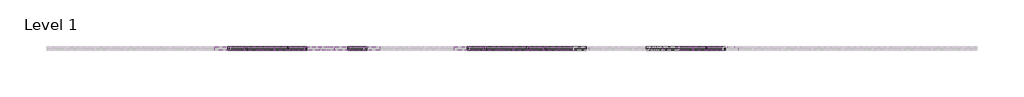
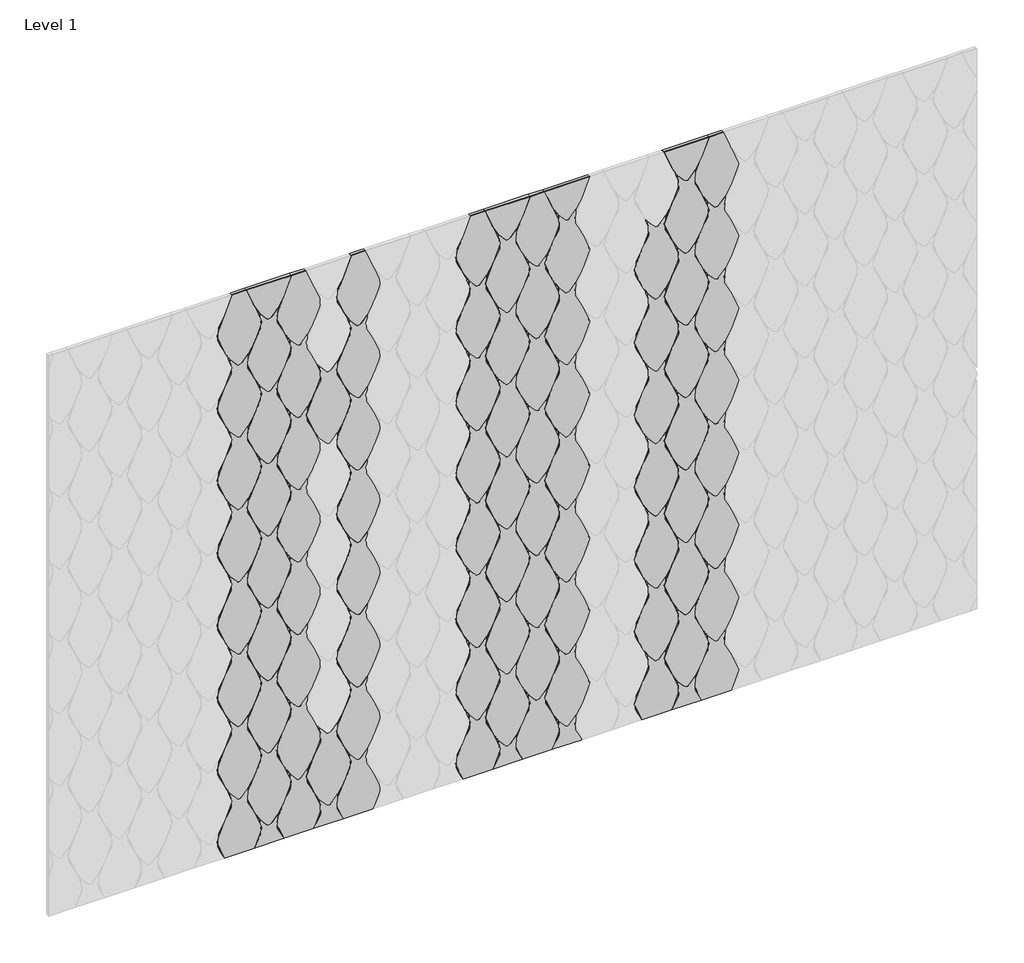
# One storey, part 2 of 3: 94 proxies.
"""IFC4 building model written with IfcOpenShell, lengths in millimetres."""

from ifc_helpers import new_model, si_unit, origin, place, context, project, spatial, transform, mapped, element, save
from components import specialty_equipment_90dfa3fd, specialty_equipment_1cb976ee, specialty_equipment_ba96d7a5, specialty_equipment_e357aaf0, specialty_equipment_1d68d449, specialty_equipment_ef051c02, specialty_equipment_d7a9fa1d, specialty_equipment_cac041dc, specialty_equipment_c87418b1, specialty_equipment_25086a34, specialty_equipment_932aa2c9, specialty_equipment_58f33b70

model = new_model("IFC4")

# Units and contexts
model_context = context("Model", 3, world=origin())
ifc_project = project(units=[si_unit("LENGTHUNIT", "METRE", prefix="MILLI")], contexts=[model_context])

# Site, building, storey
site = spatial("IfcSite", under=ifc_project)
building = spatial("IfcBuilding", under=site)
storey = spatial("IfcBuildingStorey", under=building, Name="Level 1", Elevation=0.0)

# Proxies
placement = place(None, origin())
specialty_equipment_shape = specialty_equipment_90dfa3fd(model_context)
element("IfcBuildingElementProxy", 1, Name="FilzFelt_Fish_Block : Fish Block", ObjectType="FilzFelt_Fish_Block : Fish Block", at=placement, inside=storey, context=model_context, shape_type="MappedRepresentation", body=[
    mapped(specialty_equipment_shape, transform((21206.7774131, 4010.4660665, 1498.5384859), x_axis=(-1.0, 0.0, 0.0), y_axis=(0.0, 0.0, -1.0), z_axis=(0.0, -1.0, 0.0))),
])
element("IfcBuildingElementProxy", 2, Name="FilzFelt_Fish_Block : Fish Block", ObjectType="FilzFelt_Fish_Block : Fish Block", at=placement, inside=storey, context=model_context, shape_type="MappedRepresentation", body=[
    mapped(specialty_equipment_shape, transform((21420.9719959, 4010.4660665, 949.6423796), x_axis=(-1.0, 0.0, 0.0), y_axis=(0.0, 0.0, -1.0), z_axis=(0.0, -1.0, 0.0))),
])
element("IfcBuildingElementProxy", 3, Name="FilzFelt_Fish_Block : Fish Block", ObjectType="FilzFelt_Fish_Block : Fish Block", at=placement, inside=storey, context=model_context, shape_type="MappedRepresentation", body=[
    mapped(specialty_equipment_shape, transform((21420.9719959, 4010.4660665, 2321.8826453), x_axis=(-1.0, 0.0, 0.0), y_axis=(0.0, 0.0, -1.0), z_axis=(0.0, -1.0, 0.0))),
])
element("IfcBuildingElementProxy", 4, Name="FilzFelt_Fish_Block : Fish Block", ObjectType="FilzFelt_Fish_Block : Fish Block", at=placement, inside=storey, context=model_context, shape_type="MappedRepresentation", body=[
    mapped(specialty_equipment_shape, transform((21313.8747045, 4010.4660665, 1635.7625124), x_axis=(-1.0, 0.0, 0.0), y_axis=(0.0, 0.0, -1.0), z_axis=(0.0, -1.0, 0.0))),
])
element("IfcBuildingElementProxy", 5, Name="FilzFelt_Fish_Block : Fish Block", ObjectType="FilzFelt_Fish_Block : Fish Block", at=placement, inside=storey, context=model_context, shape_type="MappedRepresentation", body=[
    mapped(specialty_equipment_shape, transform((21742.2638702, 4010.4660665, 1086.8664061), x_axis=(-1.0, 0.0, 0.0), y_axis=(0.0, 0.0, -1.0), z_axis=(0.0, -1.0, 0.0))),
])
element("IfcBuildingElementProxy", 6, Name="FilzFelt_Fish_Block : Fish Block", ObjectType="FilzFelt_Fish_Block : Fish Block", at=placement, inside=storey, context=model_context, shape_type="MappedRepresentation", body=[
    mapped(specialty_equipment_shape, transform((20349.9990817, 4010.4660665, 1224.0904327), x_axis=(-1.0, 0.0, 0.0), y_axis=(0.0, 0.0, -1.0), z_axis=(0.0, -1.0, 0.0))),
])
element("IfcBuildingElementProxy", 7, Name="FilzFelt_Fish_Block : Fish Block", ObjectType="FilzFelt_Fish_Block : Fish Block", at=placement, inside=storey, context=model_context, shape_type="MappedRepresentation", body=[
    mapped(specialty_equipment_shape, transform((20349.9990817, 4010.4660665, 1772.986539), x_axis=(-1.0, 0.0, 0.0), y_axis=(0.0, 0.0, -1.0), z_axis=(0.0, -1.0, 0.0))),
])
element("IfcBuildingElementProxy", 8, Name="FilzFelt_Fish_Block : Fish Block", ObjectType="FilzFelt_Fish_Block : Fish Block", at=placement, inside=storey, context=model_context, shape_type="MappedRepresentation", body=[
    mapped(specialty_equipment_shape, transform((21206.7774131, 4010.4660665, 1224.0904327), x_axis=(-1.0, 0.0, 0.0), y_axis=(0.0, 0.0, -1.0), z_axis=(0.0, -1.0, 0.0))),
])
element("IfcBuildingElementProxy", 9, Name="FilzFelt_Fish_Block : Fish Block", ObjectType="FilzFelt_Fish_Block : Fish Block", at=placement, inside=storey, context=model_context, shape_type="MappedRepresentation", body=[
    mapped(specialty_equipment_shape, transform((21206.7774131, 4010.4660665, 1772.986539), x_axis=(-1.0, 0.0, 0.0), y_axis=(0.0, 0.0, -1.0), z_axis=(0.0, -1.0, 0.0))),
])
element("IfcBuildingElementProxy", 10, Name="FilzFelt_Fish_Block : Fish Block", ObjectType="FilzFelt_Fish_Block : Fish Block", at=placement, inside=storey, context=model_context, shape_type="MappedRepresentation", body=[
    mapped(specialty_equipment_shape, transform((21206.7774131, 4010.4660665, 2047.4345922), x_axis=(-1.0, 0.0, 0.0), y_axis=(0.0, 0.0, -1.0), z_axis=(0.0, -1.0, 0.0))),
])
element("IfcBuildingElementProxy", 11, Name="FilzFelt_Fish_Block : Fish Block", ObjectType="FilzFelt_Fish_Block : Fish Block", at=placement, inside=storey, context=model_context, shape_type="MappedRepresentation", body=[
    mapped(specialty_equipment_shape, transform((21420.9719959, 4010.4660665, 1498.5384859), x_axis=(-1.0, 0.0, 0.0), y_axis=(0.0, 0.0, -1.0), z_axis=(0.0, -1.0, 0.0))),
])
element("IfcBuildingElementProxy", 12, Name="FilzFelt_Fish_Block : Fish Block", ObjectType="FilzFelt_Fish_Block : Fish Block", at=placement, inside=storey, context=model_context, shape_type="MappedRepresentation", body=[
    mapped(specialty_equipment_shape, transform((21420.9719959, 4010.4660665, 2047.4345922), x_axis=(-1.0, 0.0, 0.0), y_axis=(0.0, 0.0, -1.0), z_axis=(0.0, -1.0, 0.0))),
])
element("IfcBuildingElementProxy", 13, Name="FilzFelt_Fish_Block : Fish Block", ObjectType="FilzFelt_Fish_Block : Fish Block", at=placement, inside=storey, context=model_context, shape_type="MappedRepresentation", body=[
    mapped(specialty_equipment_shape, transform((21313.8747045, 4010.4660665, 812.418353), x_axis=(-1.0, 0.0, 0.0), y_axis=(0.0, 0.0, -1.0), z_axis=(0.0, -1.0, 0.0))),
])
element("IfcBuildingElementProxy", 14, Name="FilzFelt_Fish_Block : Fish Block", ObjectType="FilzFelt_Fish_Block : Fish Block", at=placement, inside=storey, context=model_context, shape_type="MappedRepresentation", body=[
    mapped(specialty_equipment_shape, transform((21313.8747045, 4010.4660665, 1086.8664061), x_axis=(-1.0, 0.0, 0.0), y_axis=(0.0, 0.0, -1.0), z_axis=(0.0, -1.0, 0.0))),
])
element("IfcBuildingElementProxy", 15, Name="FilzFelt_Fish_Block : Fish Block", ObjectType="FilzFelt_Fish_Block : Fish Block", at=placement, inside=storey, context=model_context, shape_type="MappedRepresentation", body=[
    mapped(specialty_equipment_shape, transform((21313.8747045, 4010.4660665, 2184.6586188), x_axis=(-1.0, 0.0, 0.0), y_axis=(0.0, 0.0, -1.0), z_axis=(0.0, -1.0, 0.0))),
])
element("IfcBuildingElementProxy", 16, Name="FilzFelt_Fish_Block : Fish Block", ObjectType="FilzFelt_Fish_Block : Fish Block", at=placement, inside=storey, context=model_context, shape_type="MappedRepresentation", body=[
    mapped(specialty_equipment_shape, transform((21742.2638702, 4010.4660665, 812.418353), x_axis=(-1.0, 0.0, 0.0), y_axis=(0.0, 0.0, -1.0), z_axis=(0.0, -1.0, 0.0))),
])
element("IfcBuildingElementProxy", 17, Name="FilzFelt_Fish_Block : Fish Block", ObjectType="FilzFelt_Fish_Block : Fish Block", at=placement, inside=storey, context=model_context, shape_type="MappedRepresentation", body=[
    mapped(specialty_equipment_shape, transform((21742.2638702, 4010.4660665, 1635.7625124), x_axis=(-1.0, 0.0, 0.0), y_axis=(0.0, 0.0, -1.0), z_axis=(0.0, -1.0, 0.0))),
])
element("IfcBuildingElementProxy", 18, Name="FilzFelt_Fish_Block : Fish Block", ObjectType="FilzFelt_Fish_Block : Fish Block", at=placement, inside=storey, context=model_context, shape_type="MappedRepresentation", body=[
    mapped(specialty_equipment_shape, transform((21742.2638702, 4010.4660665, 1910.2105656), x_axis=(-1.0, 0.0, 0.0), y_axis=(0.0, 0.0, -1.0), z_axis=(0.0, -1.0, 0.0))),
])
element("IfcBuildingElementProxy", 19, Name="FilzFelt_Fish_Block : Fish Block", ObjectType="FilzFelt_Fish_Block : Fish Block", at=placement, inside=storey, context=model_context, shape_type="MappedRepresentation", body=[
    mapped(specialty_equipment_shape, transform((21742.2638702, 4010.4660665, 2184.6586188), x_axis=(-1.0, 0.0, 0.0), y_axis=(0.0, 0.0, -1.0), z_axis=(0.0, -1.0, 0.0))),
])
element("IfcBuildingElementProxy", 20, Name="FilzFelt_Fish_Block : Fish Block", ObjectType="FilzFelt_Fish_Block : Fish Block", at=placement, inside=storey, context=model_context, shape_type="MappedRepresentation", body=[
    mapped(specialty_equipment_shape, transform((20349.9990817, 4010.4660665, 949.6423796), x_axis=(-1.0, 0.0, 0.0), y_axis=(0.0, 0.0, -1.0), z_axis=(0.0, -1.0, 0.0))),
])
element("IfcBuildingElementProxy", 21, Name="FilzFelt_Fish_Block : Fish Block", ObjectType="FilzFelt_Fish_Block : Fish Block", at=placement, inside=storey, context=model_context, shape_type="MappedRepresentation", body=[
    mapped(specialty_equipment_shape, transform((20349.9990817, 4010.4660665, 2321.8826453), x_axis=(-1.0, 0.0, 0.0), y_axis=(0.0, 0.0, -1.0), z_axis=(0.0, -1.0, 0.0))),
])
element("IfcBuildingElementProxy", 22, Name="FilzFelt_Fish_Block : Fish Block", ObjectType="FilzFelt_Fish_Block : Fish Block", at=placement, inside=storey, context=model_context, shape_type="MappedRepresentation", body=[
    mapped(specialty_equipment_shape, transform((20349.9990817, 4010.4660665, 2047.4345922), x_axis=(-1.0, 0.0, 0.0), y_axis=(0.0, 0.0, -1.0), z_axis=(0.0, -1.0, 0.0))),
])
element("IfcBuildingElementProxy", 23, Name="FilzFelt_Fish_Block : Fish Block", ObjectType="FilzFelt_Fish_Block : Fish Block", at=placement, inside=storey, context=model_context, shape_type="MappedRepresentation", body=[
    mapped(specialty_equipment_shape, transform((20457.0963731, 4010.4660665, 1361.3144593), x_axis=(-1.0, 0.0, 0.0), y_axis=(0.0, 0.0, -1.0), z_axis=(0.0, -1.0, 0.0))),
])
element("IfcBuildingElementProxy", 24, Name="FilzFelt_Fish_Block : Fish Block", ObjectType="FilzFelt_Fish_Block : Fish Block", at=placement, inside=storey, context=model_context, shape_type="MappedRepresentation", body=[
    mapped(specialty_equipment_shape, transform((20457.0963731, 4010.4660665, 1635.7625124), x_axis=(-1.0, 0.0, 0.0), y_axis=(0.0, 0.0, -1.0), z_axis=(0.0, -1.0, 0.0))),
])
specialty_equipment_2_shape = specialty_equipment_1cb976ee(model_context)
element("IfcBuildingElementProxy", 25, Name="FilzFelt_Fish_Block : Fish Block", ObjectType="FilzFelt_Fish_Block : Fish Block", at=placement, inside=storey, context=model_context, shape_type="MappedRepresentation", body=[
    mapped(specialty_equipment_2_shape, transform((20349.9990817, 4010.4660665, 2596.3306985), x_axis=(-1.0, 0.0, 0.0), y_axis=(0.0, 0.0, -1.0), z_axis=(0.0, -1.0, 0.0))),
])
element("IfcBuildingElementProxy", 26, Name="FilzFelt_Fish_Block : Fish Block", ObjectType="FilzFelt_Fish_Block : Fish Block", at=placement, inside=storey, context=model_context, shape_type="MappedRepresentation", body=[
    mapped(specialty_equipment_shape, transform((21206.7774131, 4010.4660665, 949.6423796), x_axis=(-1.0, 0.0, 0.0), y_axis=(0.0, 0.0, -1.0), z_axis=(0.0, -1.0, 0.0))),
])
element("IfcBuildingElementProxy", 27, Name="FilzFelt_Fish_Block : Fish Block", ObjectType="FilzFelt_Fish_Block : Fish Block", at=placement, inside=storey, context=model_context, shape_type="MappedRepresentation", body=[
    mapped(specialty_equipment_shape, transform((21206.7774131, 4010.4660665, 2321.8826453), x_axis=(-1.0, 0.0, 0.0), y_axis=(0.0, 0.0, -1.0), z_axis=(0.0, -1.0, 0.0))),
])
element("IfcBuildingElementProxy", 28, Name="FilzFelt_Fish_Block : Fish Block", ObjectType="FilzFelt_Fish_Block : Fish Block", at=placement, inside=storey, context=model_context, shape_type="MappedRepresentation", body=[
    mapped(specialty_equipment_shape, transform((21313.8747045, 4010.4660665, 1361.3144593), x_axis=(-1.0, 0.0, 0.0), y_axis=(0.0, 0.0, -1.0), z_axis=(0.0, -1.0, 0.0))),
])
element("IfcBuildingElementProxy", 29, Name="FilzFelt_Fish_Block : Fish Block", ObjectType="FilzFelt_Fish_Block : Fish Block", at=placement, inside=storey, context=model_context, shape_type="MappedRepresentation", body=[
    mapped(specialty_equipment_shape, transform((21742.2638702, 4010.4660665, 1361.3144593), x_axis=(-1.0, 0.0, 0.0), y_axis=(0.0, 0.0, -1.0), z_axis=(0.0, -1.0, 0.0))),
])
element("IfcBuildingElementProxy", 30, Name="FilzFelt_Fish_Block : Fish Block", ObjectType="FilzFelt_Fish_Block : Fish Block", at=placement, inside=storey, context=model_context, shape_type="MappedRepresentation", body=[
    mapped(specialty_equipment_shape, transform((20457.0963731, 4010.4660665, 812.418353), x_axis=(-1.0, 0.0, 0.0), y_axis=(0.0, 0.0, -1.0), z_axis=(0.0, -1.0, 0.0))),
])
element("IfcBuildingElementProxy", 31, Name="FilzFelt_Fish_Block : Fish Block", ObjectType="FilzFelt_Fish_Block : Fish Block", at=placement, inside=storey, context=model_context, shape_type="MappedRepresentation", body=[
    mapped(specialty_equipment_shape, transform((20457.0963731, 4010.4660665, 2184.6586188), x_axis=(-1.0, 0.0, 0.0), y_axis=(0.0, 0.0, -1.0), z_axis=(0.0, -1.0, 0.0))),
])
specialty_equipment_3_shape = specialty_equipment_ba96d7a5(model_context)
element("IfcBuildingElementProxy", 32, Name="FilzFelt_Fish_Block : Fish Block", ObjectType="FilzFelt_Fish_Block : Fish Block", at=placement, inside=storey, context=model_context, shape_type="MappedRepresentation", body=[
    mapped(specialty_equipment_3_shape, transform((21313.8747045, 4010.4660665, 537.9702998), x_axis=(-1.0, 0.0, 0.0), y_axis=(0.0, 0.0, -1.0), z_axis=(0.0, -1.0, 0.0))),
])
element("IfcBuildingElementProxy", 33, Name="FilzFelt_Fish_Block : Fish Block", ObjectType="FilzFelt_Fish_Block : Fish Block", at=placement, inside=storey, context=model_context, shape_type="MappedRepresentation", body=[
    mapped(specialty_equipment_3_shape, transform((20457.0963731, 4010.4660665, 537.9702998), x_axis=(-1.0, 0.0, 0.0), y_axis=(0.0, 0.0, -1.0), z_axis=(0.0, -1.0, 0.0))),
])
element("IfcBuildingElementProxy", 34, Name="FilzFelt_Fish_Block : Fish Block", ObjectType="FilzFelt_Fish_Block : Fish Block", at=placement, inside=storey, context=model_context, shape_type="MappedRepresentation", body=[
    mapped(specialty_equipment_shape, transform((21420.9719959, 4010.4660665, 1224.0904327), x_axis=(-1.0, 0.0, 0.0), y_axis=(0.0, 0.0, -1.0), z_axis=(0.0, -1.0, 0.0))),
])
element("IfcBuildingElementProxy", 35, Name="FilzFelt_Fish_Block : Fish Block", ObjectType="FilzFelt_Fish_Block : Fish Block", at=placement, inside=storey, context=model_context, shape_type="MappedRepresentation", body=[
    mapped(specialty_equipment_shape, transform((21420.9719959, 4010.4660665, 1772.986539), x_axis=(-1.0, 0.0, 0.0), y_axis=(0.0, 0.0, -1.0), z_axis=(0.0, -1.0, 0.0))),
])
element("IfcBuildingElementProxy", 36, Name="FilzFelt_Fish_Block : Fish Block", ObjectType="FilzFelt_Fish_Block : Fish Block", at=placement, inside=storey, context=model_context, shape_type="MappedRepresentation", body=[
    mapped(specialty_equipment_shape, transform((21313.8747045, 4010.4660665, 1910.2105656), x_axis=(-1.0, 0.0, 0.0), y_axis=(0.0, 0.0, -1.0), z_axis=(0.0, -1.0, 0.0))),
])
element("IfcBuildingElementProxy", 37, Name="FilzFelt_Fish_Block : Fish Block", ObjectType="FilzFelt_Fish_Block : Fish Block", at=placement, inside=storey, context=model_context, shape_type="MappedRepresentation", body=[
    mapped(specialty_equipment_shape, transform((20349.9990817, 4010.4660665, 1498.5384859), x_axis=(-1.0, 0.0, 0.0), y_axis=(0.0, 0.0, -1.0), z_axis=(0.0, -1.0, 0.0))),
])
element("IfcBuildingElementProxy", 38, Name="FilzFelt_Fish_Block : Fish Block", ObjectType="FilzFelt_Fish_Block : Fish Block", at=placement, inside=storey, context=model_context, shape_type="MappedRepresentation", body=[
    mapped(specialty_equipment_shape, transform((20457.0963731, 4010.4660665, 1086.8664061), x_axis=(-1.0, 0.0, 0.0), y_axis=(0.0, 0.0, -1.0), z_axis=(0.0, -1.0, 0.0))),
])
element("IfcBuildingElementProxy", 39, Name="FilzFelt_Fish_Block : Fish Block", ObjectType="FilzFelt_Fish_Block : Fish Block", at=placement, inside=storey, context=model_context, shape_type="MappedRepresentation", body=[
    mapped(specialty_equipment_shape, transform((20457.0963731, 4010.4660665, 1910.2105656), x_axis=(-1.0, 0.0, 0.0), y_axis=(0.0, 0.0, -1.0), z_axis=(0.0, -1.0, 0.0))),
])
specialty_equipment_4_shape = specialty_equipment_e357aaf0(model_context)
element("IfcBuildingElementProxy", 40, Name="FilzFelt_Fish_Block : Fish Block", ObjectType="FilzFelt_Fish_Block : Fish Block", at=placement, inside=storey, context=model_context, shape_type="MappedRepresentation", body=[
    mapped(specialty_equipment_4_shape, transform((20457.0963731, 4010.4660665, 2459.1066719), x_axis=(-1.0, 0.0, 0.0), y_axis=(0.0, 0.0, -1.0), z_axis=(0.0, -1.0, 0.0))),
])
specialty_equipment_5_shape = specialty_equipment_1d68d449(model_context)
element("IfcBuildingElementProxy", 41, Name="FilzFelt_Fish_Block : Fish Block", ObjectType="FilzFelt_Fish_Block : Fish Block", at=placement, inside=storey, context=model_context, shape_type="MappedRepresentation", body=[
    mapped(specialty_equipment_5_shape, transform((21849.3611616, 4010.4660665, 1772.986539), x_axis=(1.0, 0.0, 0.0), y_axis=(0.0, 0.0, 1.0), z_axis=(0.0, -1.0, 0.0))),
])
element("IfcBuildingElementProxy", 42, Name="FilzFelt_Fish_Block : Fish Block", ObjectType="FilzFelt_Fish_Block : Fish Block", at=placement, inside=storey, context=model_context, shape_type="MappedRepresentation", body=[
    mapped(specialty_equipment_5_shape, transform((21956.458453, 4010.4660665, 1086.8664061), x_axis=(1.0, 0.0, 0.0), y_axis=(0.0, 0.0, 1.0), z_axis=(0.0, -1.0, 0.0))),
])
element("IfcBuildingElementProxy", 43, Name="FilzFelt_Fish_Block : Fish Block", ObjectType="FilzFelt_Fish_Block : Fish Block", at=placement, inside=storey, context=model_context, shape_type="MappedRepresentation", body=[
    mapped(specialty_equipment_5_shape, transform((21099.6801216, 4010.4660665, 812.418353), x_axis=(1.0, 0.0, 0.0), y_axis=(0.0, 0.0, 1.0), z_axis=(0.0, -1.0, 0.0))),
])
element("IfcBuildingElementProxy", 44, Name="FilzFelt_Fish_Block : Fish Block", ObjectType="FilzFelt_Fish_Block : Fish Block", at=placement, inside=storey, context=model_context, shape_type="MappedRepresentation", body=[
    mapped(specialty_equipment_5_shape, transform((21099.6801216, 4010.4660665, 1910.2105656), x_axis=(1.0, 0.0, 0.0), y_axis=(0.0, 0.0, 1.0), z_axis=(0.0, -1.0, 0.0))),
])
element("IfcBuildingElementProxy", 45, Name="FilzFelt_Fish_Block : Fish Block", ObjectType="FilzFelt_Fish_Block : Fish Block", at=placement, inside=storey, context=model_context, shape_type="MappedRepresentation", body=[
    mapped(specialty_equipment_5_shape, transform((21099.6801216, 4010.4660665, 2184.6586188), x_axis=(1.0, 0.0, 0.0), y_axis=(0.0, 0.0, 1.0), z_axis=(0.0, -1.0, 0.0))),
])
element("IfcBuildingElementProxy", 46, Name="FilzFelt_Fish_Block : Fish Block", ObjectType="FilzFelt_Fish_Block : Fish Block", at=placement, inside=storey, context=model_context, shape_type="MappedRepresentation", body=[
    mapped(specialty_equipment_5_shape, transform((20671.290956, 4010.4660665, 1361.3144593), x_axis=(1.0, 0.0, 0.0), y_axis=(0.0, 0.0, 1.0), z_axis=(0.0, -1.0, 0.0))),
])
element("IfcBuildingElementProxy", 47, Name="FilzFelt_Fish_Block : Fish Block", ObjectType="FilzFelt_Fish_Block : Fish Block", at=placement, inside=storey, context=model_context, shape_type="MappedRepresentation", body=[
    mapped(specialty_equipment_5_shape, transform((20242.9017903, 4010.4660665, 812.418353), x_axis=(1.0, 0.0, 0.0), y_axis=(0.0, 0.0, 1.0), z_axis=(0.0, -1.0, 0.0))),
])
element("IfcBuildingElementProxy", 48, Name="FilzFelt_Fish_Block : Fish Block", ObjectType="FilzFelt_Fish_Block : Fish Block", at=placement, inside=storey, context=model_context, shape_type="MappedRepresentation", body=[
    mapped(specialty_equipment_5_shape, transform((20242.9017903, 4010.4660665, 2184.6586188), x_axis=(1.0, 0.0, 0.0), y_axis=(0.0, 0.0, 1.0), z_axis=(0.0, -1.0, 0.0))),
])
element("IfcBuildingElementProxy", 49, Name="FilzFelt_Fish_Block : Fish Block", ObjectType="FilzFelt_Fish_Block : Fish Block", at=placement, inside=storey, context=model_context, shape_type="MappedRepresentation", body=[
    mapped(specialty_equipment_5_shape, transform((21849.3611616, 4010.4660665, 2047.4345922), x_axis=(1.0, 0.0, 0.0), y_axis=(0.0, 0.0, 1.0), z_axis=(0.0, -1.0, 0.0))),
])
element("IfcBuildingElementProxy", 50, Name="FilzFelt_Fish_Block : Fish Block", ObjectType="FilzFelt_Fish_Block : Fish Block", at=placement, inside=storey, context=model_context, shape_type="MappedRepresentation", body=[
    mapped(specialty_equipment_5_shape, transform((21099.6801216, 4010.4660665, 1086.8664061), x_axis=(1.0, 0.0, 0.0), y_axis=(0.0, 0.0, 1.0), z_axis=(0.0, -1.0, 0.0))),
])
element("IfcBuildingElementProxy", 51, Name="FilzFelt_Fish_Block : Fish Block", ObjectType="FilzFelt_Fish_Block : Fish Block", at=placement, inside=storey, context=model_context, shape_type="MappedRepresentation", body=[
    mapped(specialty_equipment_5_shape, transform((21099.6801216, 4010.4660665, 1361.3144593), x_axis=(1.0, 0.0, 0.0), y_axis=(0.0, 0.0, 1.0), z_axis=(0.0, -1.0, 0.0))),
])
element("IfcBuildingElementProxy", 52, Name="FilzFelt_Fish_Block : Fish Block", ObjectType="FilzFelt_Fish_Block : Fish Block", at=placement, inside=storey, context=model_context, shape_type="MappedRepresentation", body=[
    mapped(specialty_equipment_5_shape, transform((20671.290956, 4010.4660665, 1086.8664061), x_axis=(1.0, 0.0, 0.0), y_axis=(0.0, 0.0, 1.0), z_axis=(0.0, -1.0, 0.0))),
])
element("IfcBuildingElementProxy", 53, Name="FilzFelt_Fish_Block : Fish Block", ObjectType="FilzFelt_Fish_Block : Fish Block", at=placement, inside=storey, context=model_context, shape_type="MappedRepresentation", body=[
    mapped(specialty_equipment_5_shape, transform((20242.9017903, 4010.4660665, 1635.7625124), x_axis=(1.0, 0.0, 0.0), y_axis=(0.0, 0.0, 1.0), z_axis=(0.0, -1.0, 0.0))),
])
element("IfcBuildingElementProxy", 54, Name="FilzFelt_Fish_Block : Fish Block", ObjectType="FilzFelt_Fish_Block : Fish Block", at=placement, inside=storey, context=model_context, shape_type="MappedRepresentation", body=[
    mapped(specialty_equipment_5_shape, transform((21849.3611616, 4010.4660665, 1224.0904327), x_axis=(1.0, 0.0, 0.0), y_axis=(0.0, 0.0, 1.0), z_axis=(0.0, -1.0, 0.0))),
])
element("IfcBuildingElementProxy", 55, Name="FilzFelt_Fish_Block : Fish Block", ObjectType="FilzFelt_Fish_Block : Fish Block", at=placement, inside=storey, context=model_context, shape_type="MappedRepresentation", body=[
    mapped(specialty_equipment_5_shape, transform((21849.3611616, 4010.4660665, 1498.5384859), x_axis=(1.0, 0.0, 0.0), y_axis=(0.0, 0.0, 1.0), z_axis=(0.0, -1.0, 0.0))),
])
element("IfcBuildingElementProxy", 56, Name="FilzFelt_Fish_Block : Fish Block", ObjectType="FilzFelt_Fish_Block : Fish Block", at=placement, inside=storey, context=model_context, shape_type="MappedRepresentation", body=[
    mapped(specialty_equipment_5_shape, transform((21849.3611616, 4010.4660665, 949.6423796), x_axis=(1.0, 0.0, 0.0), y_axis=(0.0, 0.0, 1.0), z_axis=(0.0, -1.0, 0.0))),
])
element("IfcBuildingElementProxy", 57, Name="FilzFelt_Fish_Block : Fish Block", ObjectType="FilzFelt_Fish_Block : Fish Block", at=placement, inside=storey, context=model_context, shape_type="MappedRepresentation", body=[
    mapped(specialty_equipment_5_shape, transform((21849.3611616, 4010.4660665, 2321.8826453), x_axis=(1.0, 0.0, 0.0), y_axis=(0.0, 0.0, 1.0), z_axis=(0.0, -1.0, 0.0))),
])
element("IfcBuildingElementProxy", 58, Name="FilzFelt_Fish_Block : Fish Block", ObjectType="FilzFelt_Fish_Block : Fish Block", at=placement, inside=storey, context=model_context, shape_type="MappedRepresentation", body=[
    mapped(specialty_equipment_5_shape, transform((21956.458453, 4010.4660665, 1361.3144593), x_axis=(1.0, 0.0, 0.0), y_axis=(0.0, 0.0, 1.0), z_axis=(0.0, -1.0, 0.0))),
])
element("IfcBuildingElementProxy", 59, Name="FilzFelt_Fish_Block : Fish Block", ObjectType="FilzFelt_Fish_Block : Fish Block", at=placement, inside=storey, context=model_context, shape_type="MappedRepresentation", body=[
    mapped(specialty_equipment_5_shape, transform((21956.458453, 4010.4660665, 1635.7625124), x_axis=(1.0, 0.0, 0.0), y_axis=(0.0, 0.0, 1.0), z_axis=(0.0, -1.0, 0.0))),
])
element("IfcBuildingElementProxy", 60, Name="FilzFelt_Fish_Block : Fish Block", ObjectType="FilzFelt_Fish_Block : Fish Block", at=placement, inside=storey, context=model_context, shape_type="MappedRepresentation", body=[
    mapped(specialty_equipment_5_shape, transform((21956.458453, 4010.4660665, 1910.2105656), x_axis=(1.0, 0.0, 0.0), y_axis=(0.0, 0.0, 1.0), z_axis=(0.0, -1.0, 0.0))),
])
element("IfcBuildingElementProxy", 61, Name="FilzFelt_Fish_Block : Fish Block", ObjectType="FilzFelt_Fish_Block : Fish Block", at=placement, inside=storey, context=model_context, shape_type="MappedRepresentation", body=[
    mapped(specialty_equipment_5_shape, transform((20671.290956, 4010.4660665, 812.418353), x_axis=(1.0, 0.0, 0.0), y_axis=(0.0, 0.0, 1.0), z_axis=(0.0, -1.0, 0.0))),
])
element("IfcBuildingElementProxy", 62, Name="FilzFelt_Fish_Block : Fish Block", ObjectType="FilzFelt_Fish_Block : Fish Block", at=placement, inside=storey, context=model_context, shape_type="MappedRepresentation", body=[
    mapped(specialty_equipment_5_shape, transform((20671.290956, 4010.4660665, 1635.7625124), x_axis=(1.0, 0.0, 0.0), y_axis=(0.0, 0.0, 1.0), z_axis=(0.0, -1.0, 0.0))),
])
element("IfcBuildingElementProxy", 63, Name="FilzFelt_Fish_Block : Fish Block", ObjectType="FilzFelt_Fish_Block : Fish Block", at=placement, inside=storey, context=model_context, shape_type="MappedRepresentation", body=[
    mapped(specialty_equipment_5_shape, transform((20671.290956, 4010.4660665, 2184.6586188), x_axis=(1.0, 0.0, 0.0), y_axis=(0.0, 0.0, 1.0), z_axis=(0.0, -1.0, 0.0))),
])
element("IfcBuildingElementProxy", 64, Name="FilzFelt_Fish_Block : Fish Block", ObjectType="FilzFelt_Fish_Block : Fish Block", at=placement, inside=storey, context=model_context, shape_type="MappedRepresentation", body=[
    mapped(specialty_equipment_5_shape, transform((20242.9017903, 4010.4660665, 1361.3144593), x_axis=(1.0, 0.0, 0.0), y_axis=(0.0, 0.0, 1.0), z_axis=(0.0, -1.0, 0.0))),
])
element("IfcBuildingElementProxy", 65, Name="FilzFelt_Fish_Block : Fish Block", ObjectType="FilzFelt_Fish_Block : Fish Block", at=placement, inside=storey, context=model_context, shape_type="MappedRepresentation", body=[
    mapped(specialty_equipment_5_shape, transform((20242.9017903, 4010.4660665, 1910.2105656), x_axis=(1.0, 0.0, 0.0), y_axis=(0.0, 0.0, 1.0), z_axis=(0.0, -1.0, 0.0))),
])
specialty_equipment_6_shape = specialty_equipment_ef051c02(model_context)
element("IfcBuildingElementProxy", 66, Name="FilzFelt_Fish_Block : Fish Block", ObjectType="FilzFelt_Fish_Block : Fish Block", at=placement, inside=storey, context=model_context, shape_type="MappedRepresentation", body=[
    mapped(specialty_equipment_6_shape, transform((21849.3611616, 4010.4660665, 400.7462733), x_axis=(1.0, 0.0, 0.0), y_axis=(0.0, 0.0, 1.0), z_axis=(0.0, -1.0, 0.0))),
])
element("IfcBuildingElementProxy", 67, Name="FilzFelt_Fish_Block : Fish Block", ObjectType="FilzFelt_Fish_Block : Fish Block", at=placement, inside=storey, context=model_context, shape_type="MappedRepresentation", body=[
    mapped(specialty_equipment_5_shape, transform((21956.458453, 4010.4660665, 812.418353), x_axis=(1.0, 0.0, 0.0), y_axis=(0.0, 0.0, 1.0), z_axis=(0.0, -1.0, 0.0))),
])
element("IfcBuildingElementProxy", 68, Name="FilzFelt_Fish_Block : Fish Block", ObjectType="FilzFelt_Fish_Block : Fish Block", at=placement, inside=storey, context=model_context, shape_type="MappedRepresentation", body=[
    mapped(specialty_equipment_5_shape, transform((21956.458453, 4010.4660665, 2184.6586188), x_axis=(1.0, 0.0, 0.0), y_axis=(0.0, 0.0, 1.0), z_axis=(0.0, -1.0, 0.0))),
])
element("IfcBuildingElementProxy", 69, Name="FilzFelt_Fish_Block : Fish Block", ObjectType="FilzFelt_Fish_Block : Fish Block", at=placement, inside=storey, context=model_context, shape_type="MappedRepresentation", body=[
    mapped(specialty_equipment_5_shape, transform((21099.6801216, 4010.4660665, 1635.7625124), x_axis=(1.0, 0.0, 0.0), y_axis=(0.0, 0.0, 1.0), z_axis=(0.0, -1.0, 0.0))),
])
element("IfcBuildingElementProxy", 70, Name="FilzFelt_Fish_Block : Fish Block", ObjectType="FilzFelt_Fish_Block : Fish Block", at=placement, inside=storey, context=model_context, shape_type="MappedRepresentation", body=[
    mapped(specialty_equipment_5_shape, transform((20564.1936645, 4010.4660665, 2047.4345922), x_axis=(1.0, 0.0, 0.0), y_axis=(0.0, 0.0, 1.0), z_axis=(0.0, -1.0, 0.0))),
])
element("IfcBuildingElementProxy", 71, Name="FilzFelt_Fish_Block : Fish Block", ObjectType="FilzFelt_Fish_Block : Fish Block", at=placement, inside=storey, context=model_context, shape_type="MappedRepresentation", body=[
    mapped(specialty_equipment_5_shape, transform((20671.290956, 4010.4660665, 1910.2105656), x_axis=(1.0, 0.0, 0.0), y_axis=(0.0, 0.0, 1.0), z_axis=(0.0, -1.0, 0.0))),
])
element("IfcBuildingElementProxy", 72, Name="FilzFelt_Fish_Block : Fish Block", ObjectType="FilzFelt_Fish_Block : Fish Block", at=placement, inside=storey, context=model_context, shape_type="MappedRepresentation", body=[
    mapped(specialty_equipment_5_shape, transform((20242.9017903, 4010.4660665, 1086.8664061), x_axis=(1.0, 0.0, 0.0), y_axis=(0.0, 0.0, 1.0), z_axis=(0.0, -1.0, 0.0))),
])
specialty_equipment_7_shape = specialty_equipment_d7a9fa1d(model_context)
element("IfcBuildingElementProxy", 73, Name="FilzFelt_Fish_Block : Fish Block", ObjectType="FilzFelt_Fish_Block : Fish Block", at=placement, inside=storey, context=model_context, shape_type="MappedRepresentation", body=[
    mapped(specialty_equipment_7_shape, transform((20564.1936645, 4010.4660665, 675.1943264), x_axis=(1.0, 0.0, 0.0), y_axis=(0.0, 0.0, 1.0), z_axis=(0.0, -1.0, 0.0))),
])
specialty_equipment_8_shape = specialty_equipment_cac041dc(model_context)
element("IfcBuildingElementProxy", 74, Name="FilzFelt_Fish_Block : Fish Block", ObjectType="FilzFelt_Fish_Block : Fish Block", at=placement, inside=storey, context=model_context, shape_type="MappedRepresentation", body=[
    mapped(specialty_equipment_8_shape, transform((21956.458453, 4010.4660665, 537.9702998), x_axis=(1.0, 0.0, 0.0), y_axis=(0.0, 0.0, 1.0), z_axis=(0.0, -1.0, 0.0))),
])
element("IfcBuildingElementProxy", 75, Name="FilzFelt_Fish_Block : Fish Block", ObjectType="FilzFelt_Fish_Block : Fish Block", at=placement, inside=storey, context=model_context, shape_type="MappedRepresentation", body=[
    mapped(specialty_equipment_8_shape, transform((20242.9017903, 4010.4660665, 537.9702998), x_axis=(1.0, 0.0, 0.0), y_axis=(0.0, 0.0, 1.0), z_axis=(0.0, -1.0, 0.0))),
])
specialty_equipment_9_shape = specialty_equipment_c87418b1(model_context)
element("IfcBuildingElementProxy", 76, Name="FilzFelt_Fish_Block : Fish Block", ObjectType="FilzFelt_Fish_Block : Fish Block", at=placement, inside=storey, context=model_context, shape_type="MappedRepresentation", body=[
    mapped(specialty_equipment_9_shape, transform((20242.9017903, 4010.4660665, 2459.1066719), x_axis=(1.0, 0.0, 0.0), y_axis=(0.0, 0.0, 1.0), z_axis=(0.0, -1.0, 0.0))),
])
specialty_equipment_10_shape = specialty_equipment_25086a34(model_context)
element("IfcBuildingElementProxy", 77, Name="FilzFelt_Fish_Block : Fish Block", ObjectType="FilzFelt_Fish_Block : Fish Block", at=placement, inside=storey, context=model_context, shape_type="MappedRepresentation", body=[
    mapped(specialty_equipment_10_shape, transform((21849.3611616, 4010.4660665, 2596.3306985), x_axis=(1.0, 0.0, 0.0), y_axis=(0.0, 0.0, 1.0), z_axis=(0.0, -1.0, 0.0))),
])
element("IfcBuildingElementProxy", 78, Name="FilzFelt_Fish_Block : Fish Block", ObjectType="FilzFelt_Fish_Block : Fish Block", at=placement, inside=storey, context=model_context, shape_type="MappedRepresentation", body=[
    mapped(specialty_equipment_7_shape, transform((21849.3611616, 4010.4660665, 675.1943264), x_axis=(1.0, 0.0, 0.0), y_axis=(0.0, 0.0, 1.0), z_axis=(0.0, -1.0, 0.0))),
])
element("IfcBuildingElementProxy", 79, Name="FilzFelt_Fish_Block : Fish Block", ObjectType="FilzFelt_Fish_Block : Fish Block", at=placement, inside=storey, context=model_context, shape_type="MappedRepresentation", body=[
    mapped(specialty_equipment_9_shape, transform((21956.458453, 4010.4660665, 2459.1066719), x_axis=(1.0, 0.0, 0.0), y_axis=(0.0, 0.0, 1.0), z_axis=(0.0, -1.0, 0.0))),
])
element("IfcBuildingElementProxy", 80, Name="FilzFelt_Fish_Block : Fish Block", ObjectType="FilzFelt_Fish_Block : Fish Block", at=placement, inside=storey, context=model_context, shape_type="MappedRepresentation", body=[
    mapped(specialty_equipment_2_shape, transform((21206.7774131, 4010.4660665, 2596.3306985), x_axis=(-1.0, 0.0, 0.0), y_axis=(0.0, 0.0, -1.0), z_axis=(0.0, -1.0, 0.0))),
])
element("IfcBuildingElementProxy", 81, Name="FilzFelt_Fish_Block : Fish Block", ObjectType="FilzFelt_Fish_Block : Fish Block", at=placement, inside=storey, context=model_context, shape_type="MappedRepresentation", body=[
    mapped(specialty_equipment_8_shape, transform((21099.6801216, 4010.4660665, 537.9702998), x_axis=(1.0, 0.0, 0.0), y_axis=(0.0, 0.0, 1.0), z_axis=(0.0, -1.0, 0.0))),
])
element("IfcBuildingElementProxy", 82, Name="FilzFelt_Fish_Block : Fish Block", ObjectType="FilzFelt_Fish_Block : Fish Block", at=placement, inside=storey, context=model_context, shape_type="MappedRepresentation", body=[
    mapped(specialty_equipment_9_shape, transform((21099.6801216, 4010.4660665, 2459.1066719), x_axis=(1.0, 0.0, 0.0), y_axis=(0.0, 0.0, 1.0), z_axis=(0.0, -1.0, 0.0))),
])
element("IfcBuildingElementProxy", 83, Name="FilzFelt_Fish_Block : Fish Block", ObjectType="FilzFelt_Fish_Block : Fish Block", at=placement, inside=storey, context=model_context, shape_type="MappedRepresentation", body=[
    mapped(specialty_equipment_9_shape, transform((20671.290956, 4010.4660665, 2459.1066719), x_axis=(1.0, 0.0, 0.0), y_axis=(0.0, 0.0, 1.0), z_axis=(0.0, -1.0, 0.0))),
])
specialty_equipment_11_shape = specialty_equipment_932aa2c9(model_context)
element("IfcBuildingElementProxy", 84, Name="FilzFelt_Fish_Block : Fish Block", ObjectType="FilzFelt_Fish_Block : Fish Block", at=placement, inside=storey, context=model_context, shape_type="MappedRepresentation", body=[
    mapped(specialty_equipment_11_shape, transform((21206.7774131, 4010.4660665, 400.7462733), x_axis=(-1.0, 0.0, 0.0), y_axis=(0.0, 0.0, -1.0), z_axis=(0.0, -1.0, 0.0))),
])
specialty_equipment_12_shape = specialty_equipment_58f33b70(model_context)
element("IfcBuildingElementProxy", 85, Name="FilzFelt_Fish_Block : Fish Block", ObjectType="FilzFelt_Fish_Block : Fish Block", at=placement, inside=storey, context=model_context, shape_type="MappedRepresentation", body=[
    mapped(specialty_equipment_12_shape, transform((21206.7774131, 4010.4660665, 675.1943264), x_axis=(-1.0, 0.0, 0.0), y_axis=(0.0, 0.0, -1.0), z_axis=(0.0, -1.0, 0.0))),
])
element("IfcBuildingElementProxy", 86, Name="FilzFelt_Fish_Block : Fish Block", ObjectType="FilzFelt_Fish_Block : Fish Block", at=placement, inside=storey, context=model_context, shape_type="MappedRepresentation", body=[
    mapped(specialty_equipment_12_shape, transform((21420.9719959, 4010.4660665, 675.1943264), x_axis=(-1.0, 0.0, 0.0), y_axis=(0.0, 0.0, -1.0), z_axis=(0.0, -1.0, 0.0))),
])
element("IfcBuildingElementProxy", 87, Name="FilzFelt_Fish_Block : Fish Block", ObjectType="FilzFelt_Fish_Block : Fish Block", at=placement, inside=storey, context=model_context, shape_type="MappedRepresentation", body=[
    mapped(specialty_equipment_12_shape, transform((20349.9990817, 4010.4660665, 675.1943264), x_axis=(-1.0, 0.0, 0.0), y_axis=(0.0, 0.0, -1.0), z_axis=(0.0, -1.0, 0.0))),
])
element("IfcBuildingElementProxy", 88, Name="FilzFelt_Fish_Block : Fish Block", ObjectType="FilzFelt_Fish_Block : Fish Block", at=placement, inside=storey, context=model_context, shape_type="MappedRepresentation", body=[
    mapped(specialty_equipment_2_shape, transform((21420.9719959, 4010.4660665, 2596.3306985), x_axis=(-1.0, 0.0, 0.0), y_axis=(0.0, 0.0, -1.0), z_axis=(0.0, -1.0, 0.0))),
])
element("IfcBuildingElementProxy", 89, Name="FilzFelt_Fish_Block : Fish Block", ObjectType="FilzFelt_Fish_Block : Fish Block", at=placement, inside=storey, context=model_context, shape_type="MappedRepresentation", body=[
    mapped(specialty_equipment_11_shape, transform((21420.9719959, 4010.4660665, 400.7462733), x_axis=(-1.0, 0.0, 0.0), y_axis=(0.0, 0.0, -1.0), z_axis=(0.0, -1.0, 0.0))),
])
element("IfcBuildingElementProxy", 90, Name="FilzFelt_Fish_Block : Fish Block", ObjectType="FilzFelt_Fish_Block : Fish Block", at=placement, inside=storey, context=model_context, shape_type="MappedRepresentation", body=[
    mapped(specialty_equipment_4_shape, transform((21313.8747045, 4010.4660665, 2459.1066719), x_axis=(-1.0, 0.0, 0.0), y_axis=(0.0, 0.0, -1.0), z_axis=(0.0, -1.0, 0.0))),
])
element("IfcBuildingElementProxy", 91, Name="FilzFelt_Fish_Block : Fish Block", ObjectType="FilzFelt_Fish_Block : Fish Block", at=placement, inside=storey, context=model_context, shape_type="MappedRepresentation", body=[
    mapped(specialty_equipment_3_shape, transform((21742.2638702, 4010.4660665, 537.9702998), x_axis=(-1.0, 0.0, 0.0), y_axis=(0.0, 0.0, -1.0), z_axis=(0.0, -1.0, 0.0))),
])
element("IfcBuildingElementProxy", 92, Name="FilzFelt_Fish_Block : Fish Block", ObjectType="FilzFelt_Fish_Block : Fish Block", at=placement, inside=storey, context=model_context, shape_type="MappedRepresentation", body=[
    mapped(specialty_equipment_8_shape, transform((20671.290956, 4010.4660665, 537.9702998), x_axis=(1.0, 0.0, 0.0), y_axis=(0.0, 0.0, 1.0), z_axis=(0.0, -1.0, 0.0))),
])
element("IfcBuildingElementProxy", 93, Name="FilzFelt_Fish_Block : Fish Block", ObjectType="FilzFelt_Fish_Block : Fish Block", at=placement, inside=storey, context=model_context, shape_type="MappedRepresentation", body=[
    mapped(specialty_equipment_11_shape, transform((20349.9990817, 4010.4660665, 400.7462733), x_axis=(-1.0, 0.0, 0.0), y_axis=(0.0, 0.0, -1.0), z_axis=(0.0, -1.0, 0.0))),
])
element("IfcBuildingElementProxy", 94, Name="FilzFelt_Fish_Block : Fish Block", ObjectType="FilzFelt_Fish_Block : Fish Block", at=placement, inside=storey, context=model_context, shape_type="MappedRepresentation", body=[
    mapped(specialty_equipment_6_shape, transform((20564.1936645, 4010.4660665, 400.7462733), x_axis=(1.0, 0.0, 0.0), y_axis=(0.0, 0.0, 1.0), z_axis=(0.0, -1.0, 0.0))),
])

save(model, "model.ifc")
